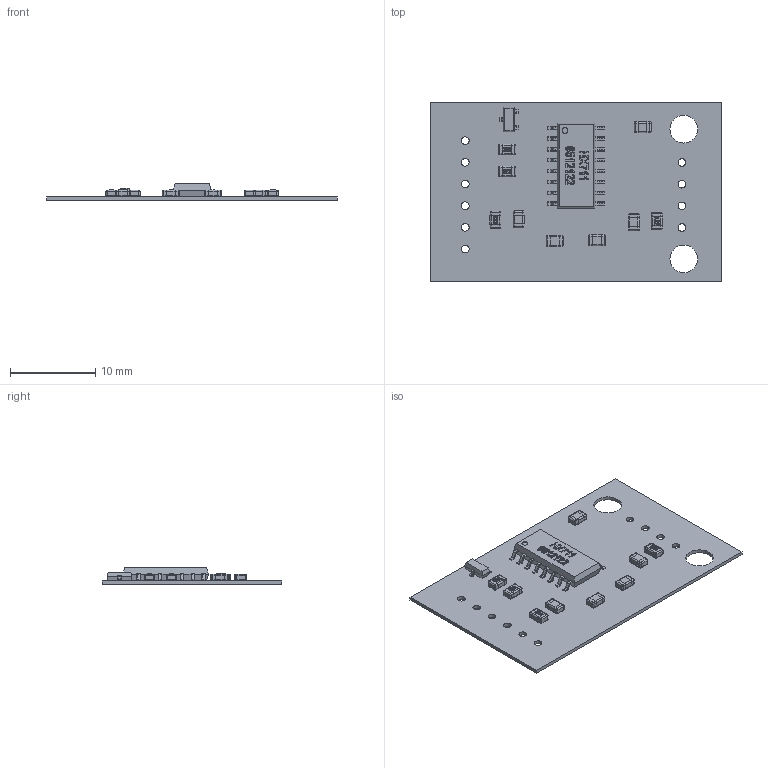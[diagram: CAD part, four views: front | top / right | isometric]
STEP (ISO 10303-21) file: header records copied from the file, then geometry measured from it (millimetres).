
FILE_DESCRIPTION(/* description */ (''),/* implementation_level */ '2;1');
FILE_NAME(/* name */ 'HX711 v1.step',/* time_stamp */ '2023-11-29T11:35:54-05:00',/* author */ (''),/* organization */ (''),/* preprocessor_version */ 'ST-DEVELOPER v20',/* originating_system */ 'Autodesk Translation Framework v12.14.0.127',/* authorisation */ '');
FILE_SCHEMA (('AUTOMOTIVE_DESIGN { 1 0 10303 214 3 1 1 }'));
Length unit declared in the file: millimetre
Products named in the file (12): HX711; placa_Valor predeterminado; HX711_SOP16_Valor predeterminado; base_HX711_Valor predeterminado; pino_HX711_Valor predeterminado; RESISTOR_SMD_122_Valor predeterminado; RESISTOR_SMD_822_Valor predeterminado; RESISTOR_SMD_203_Valor predeterminado; CAPACITOR_805_Valor predeterminado; SOT23_Valor predeterminado; TRANSISTOR_SOT23_Valor predeterminado; PINO_SOT23_Valor predeterminado
Assembly tree (33 placements, depth 3):
  HX711
    placa_Valor predeterminado
    HX711_SOP16_Valor predeterminado
      base_HX711_Valor predeterminado
      pino_HX711_Valor predeterminado  x16
    RESISTOR_SMD_122_Valor predeterminado  x2
    RESISTOR_SMD_822_Valor predeterminado
    RESISTOR_SMD_203_Valor predeterminado
    CAPACITOR_805_Valor predeterminado  x5
    SOT23_Valor predeterminado
      TRANSISTOR_SOT23_Valor predeterminado
      PINO_SOT23_Valor predeterminado  x3
Bounding box: 34 x 21 x 1.97 mm (x, y, z)
Volume: 367.9 mm3; surface area: 1708.7 mm2
Topology: 31 solids, 31 shells, 1933 faces, 4671 edges, 2721 vertices
Faces by surface type: cylinder 748, plane 647, bspline 238, torus 152, sphere 148
Full cylindrical faces by diameter (mm): 0.1 x30, 0.7 x1, 0.9 x10, 3.25 x2
Entity records: 36382 total; most frequent: CARTESIAN_POINT 14641, ORIENTED_EDGE 4604, DIRECTION 3939, EDGE_CURVE 2302, VERTEX_POINT 1439, LINE 1337, VECTOR 1337, AXIS2_PLACEMENT_3D 1301
